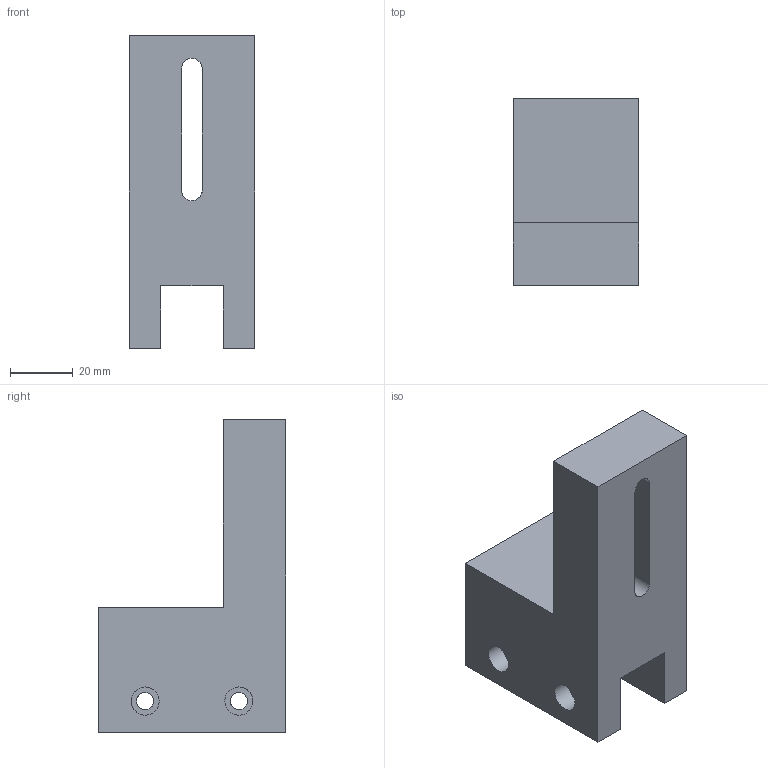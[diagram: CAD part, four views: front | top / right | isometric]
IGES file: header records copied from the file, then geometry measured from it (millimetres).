
Global section: file name: 固定件2; native system: Autodesk Inventor 2025; preprocessor: unknown; author: 97163; date: 20260318.135327; units: millimetre
Bounding box: 40.1 x 60 x 100 mm (x, y, z)
Volume: 109587.7 mm3; surface area: 23958.8 mm2
Topology: 1 solids, 1 shells, 33 faces, 90 edges, 64 vertices
Faces by surface type: bspline 33
